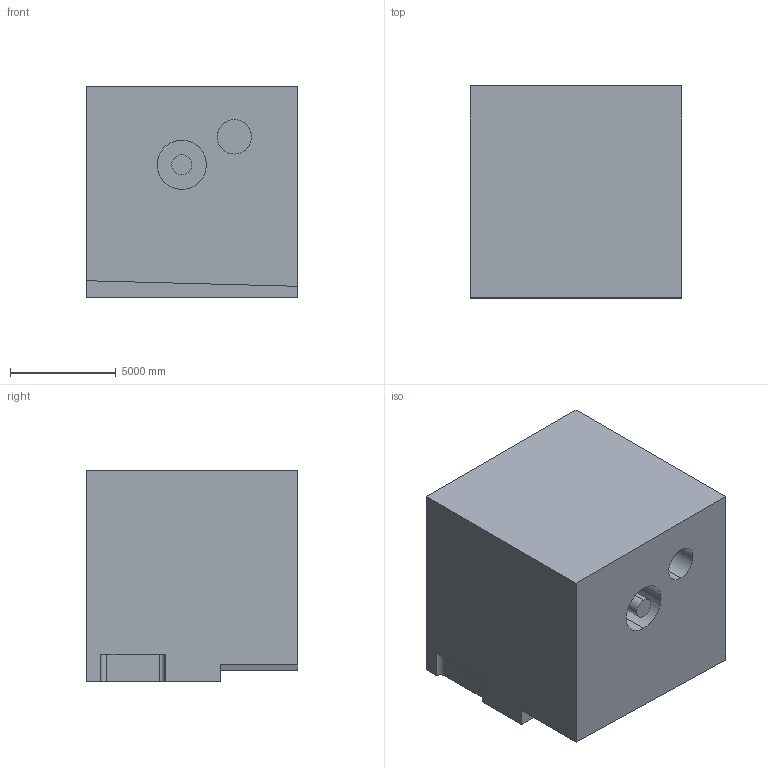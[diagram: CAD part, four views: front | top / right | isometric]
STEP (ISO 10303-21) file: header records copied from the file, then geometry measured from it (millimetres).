
FILE_DESCRIPTION (( 'STEP AP203' ), '1' );
FILE_NAME ('135.STEP', '2022-09-05T15:40:24', ( 'user' ), ( '' ), 'SwSTEP 2.0', 'SolidWorks 2021', '' );
FILE_SCHEMA (( 'CONFIG_CONTROL_DESIGN' ));
Length unit declared in the file: centimetre
Products named in the file (1): 135
Bounding box: 10000 x 10000 x 10000 mm (x, y, z)
Volume: 936315374992.4 mm3; surface area: 701783189.4 mm2
Topology: 1 solids, 1 shells, 21 faces, 48 edges, 32 vertices
Faces by surface type: plane 13, cylinder 8
Entity records: 675 total; most frequent: DIRECTION 108, CARTESIAN_POINT 102, ORIENTED_EDGE 96, EDGE_CURVE 48, AXIS2_PLACEMENT_3D 38, VECTOR 32, VERTEX_POINT 32, LINE 32
